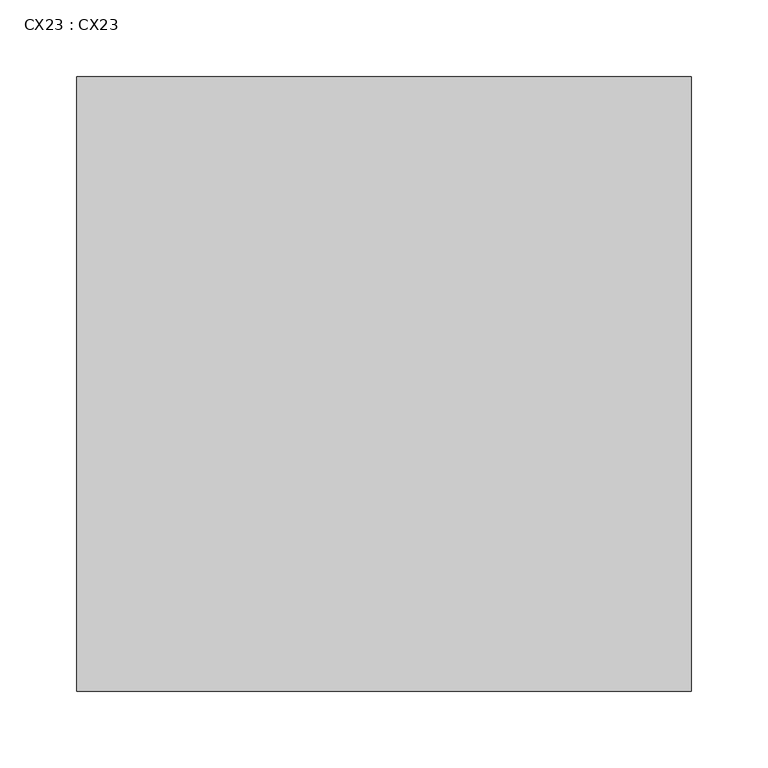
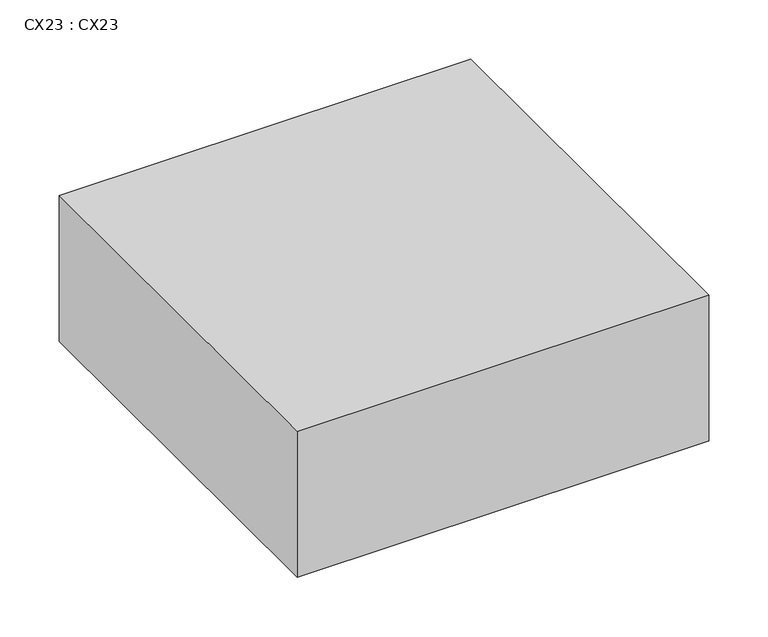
"""IFC4 building model written with IfcOpenShell, lengths in millimetres: proxy geometry, CX23 : CX23."""

from ifc_helpers import new_model, si_unit, frame, origin, place, context, project, spatial, polyline, outline, extrude, source, transform, mapped, element, save


def cx23_cx23_e4388096(model_context):
    return source(origin(), model_context, "Body", "SweptSolid", [
        extrude(outline(polyline([(24497.3, 13422.1), (24897.3, 13422.1), (24897.3, 13022.1), (24497.3, 13022.1), (24497.3, 13422.1)])), frame((0.0, 0.0, 1125.0), z_axis=(0.0, 0.0, 1.0), x_axis=(1.0, 0.0, 0.0)), (0.0, 0.0, 1.0), 150.0),
    ])


if __name__ == "__main__":
    model = new_model("IFC4")
    model_context = context("Model", 3, world=origin())
    ifc_project = project(units=[si_unit("LENGTHUNIT", "METRE", prefix="MILLI")], contexts=[model_context])
    site = spatial("IfcSite", under=ifc_project)
    building = spatial("IfcBuilding", under=site)
    placement = place(None, origin())
    cx23_cx23_shape = cx23_cx23_e4388096(model_context)
    element("IfcBuildingElementProxy", 1, Name="CX23 : CX23", ObjectType="CX23 : CX23", at=placement, inside=building, context=model_context, shape_type="MappedRepresentation", body=[
        mapped(cx23_cx23_shape, transform((0.0, 0.0, 0.0), x_axis=(1.0, 0.0, 0.0), y_axis=(0.0, 1.0, 0.0), z_axis=(0.0, 0.0, 1.0))),
    ])
    save(model, "model.ifc")
